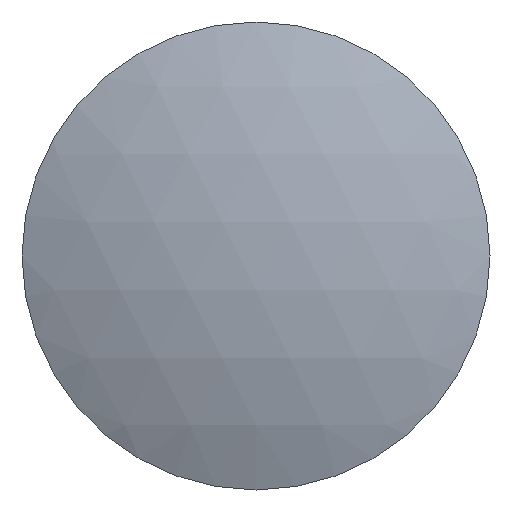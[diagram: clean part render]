
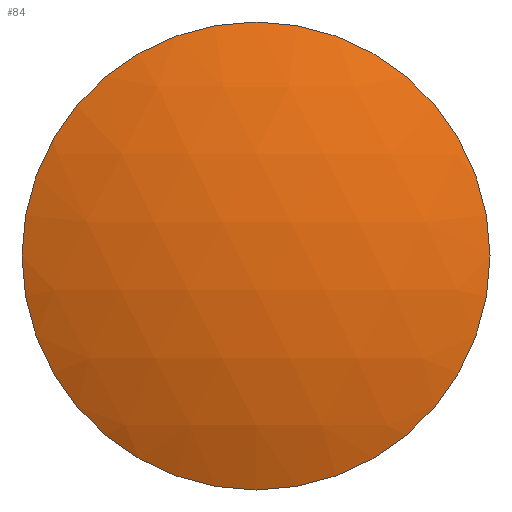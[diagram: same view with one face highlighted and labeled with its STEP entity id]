
A CAD part, front view. The second image highlights one B-rep face of the part: STEP entity #84.
In plain terms, the highlighted spherical face has radius 77.85 mm.
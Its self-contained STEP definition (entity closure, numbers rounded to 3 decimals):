
#68=CARTESIAN_POINT('',(0.0,68.85,0.0));
#69=DIRECTION('',(0.0,0.0,1.0));
#70=DIRECTION('',(1.0,0.0,0.0));
#71=AXIS2_PLACEMENT_3D('',#68,#69,#70);
#72=SPHERICAL_SURFACE('',#71,77.85);
#73=CARTESIAN_POINT('',(-30.,-2.987,0.0));
#74=VERTEX_POINT('',#73);
#75=CARTESIAN_POINT('',(0.0,-2.987,0.0));
#76=DIRECTION('',(0.0,1.0,0.0));
#77=DIRECTION('',(-1.0,0.0,0.0));
#78=AXIS2_PLACEMENT_3D('',#75,#76,#77);
#79=CIRCLE('',#78,30.);
#80=EDGE_CURVE('',#74,#74,#79,.T.);
#81=ORIENTED_EDGE('',*,*,#80,.F.);
#82=EDGE_LOOP('',(#81));
#83=FACE_OUTER_BOUND('',#82,.T.);
#84=ADVANCED_FACE('',(#83),#72,.T.);
